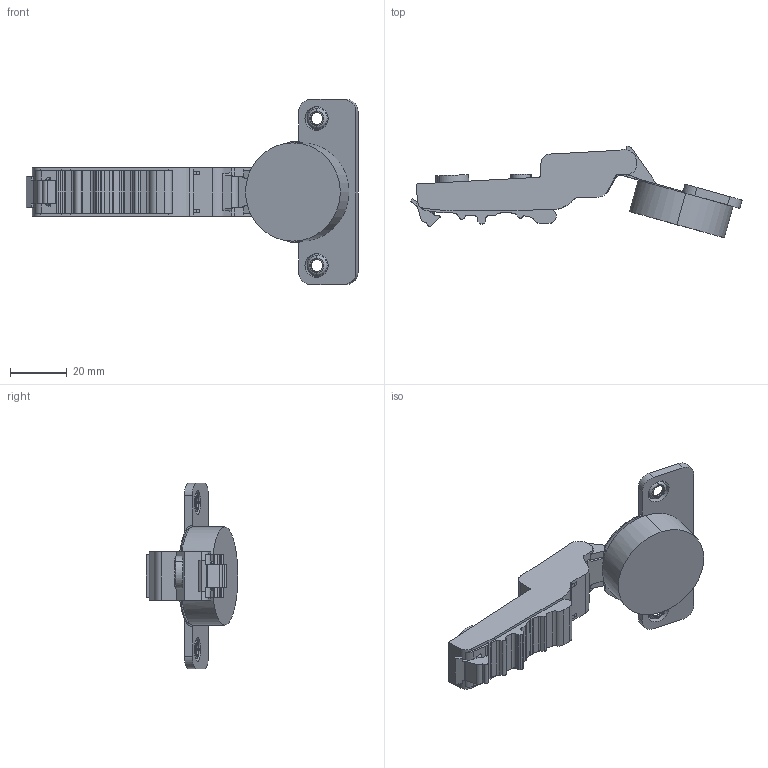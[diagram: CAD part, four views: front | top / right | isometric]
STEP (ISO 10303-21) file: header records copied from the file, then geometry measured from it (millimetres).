
FILE_DESCRIPTION (( 'STEP AP203' ), '1' );
FILE_NAME ('C82B677FA-DTC 3D open.STEP', '2024-07-10T09:05:55', ( '微软用户' ), ( '微软中国' ), 'SwSTEP 2.0', 'SolidWorks 2021', '' );
FILE_SCHEMA (( 'CONFIG_CONTROL_DESIGN' ));
Length unit declared in the file: millimetre
Products named in the file (1): C82B677FA-DTC 3D open
Bounding box: 117.45 x 32.41 x 65.56 mm (x, y, z)
Volume: 34041.6 mm3; surface area: 11526.3 mm2
Topology: 1 solids, 1 shells, 240 faces, 672 edges, 438 vertices
Faces by surface type: plane 102, cylinder 98, torus 24, cone 8, bspline 8
Entity records: 8090 total; most frequent: CARTESIAN_POINT 1748, ORIENTED_EDGE 1344, DIRECTION 1334, EDGE_CURVE 672, AXIS2_PLACEMENT_3D 488, VERTEX_POINT 438, VECTOR 358, LINE 358
